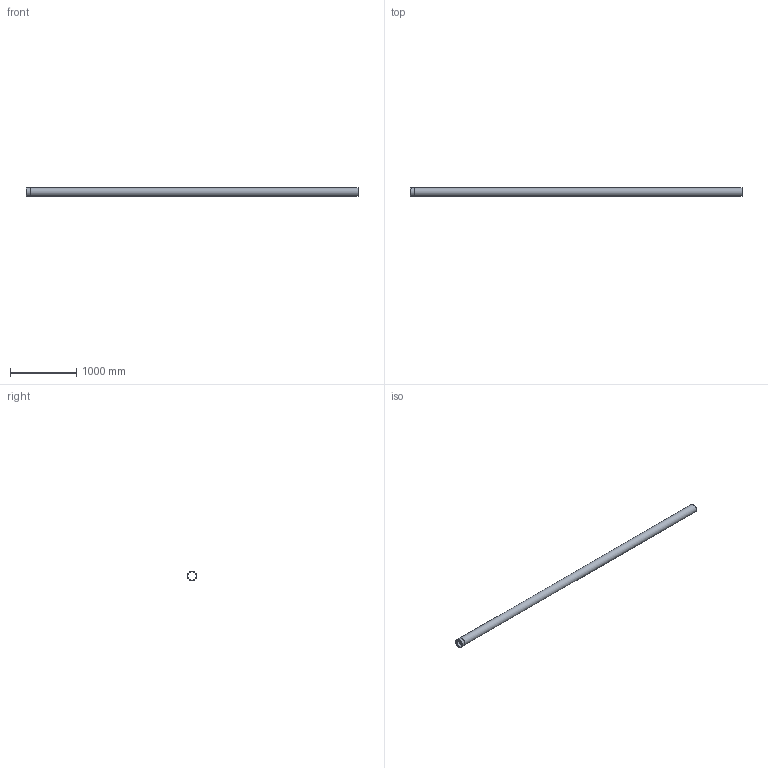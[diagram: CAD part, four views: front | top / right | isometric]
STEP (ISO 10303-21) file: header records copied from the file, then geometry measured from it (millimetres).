
FILE_DESCRIPTION((''),'2;1');
FILE_NAME('I:\WATTS\3D_CAD\3D_CAD_Models\Blucher_Drains\P_StraightPipe\WebsiteFiles\3D\STEP\P5-16.4-316.stp','2009-12-02T15:25:08',('menesek'),(''),'Autodesk Inventor 2010','Autodesk Inventor 2010','');
FILE_SCHEMA(('AUTOMOTIVE_DESIGN { 1 0 10303 214 1 1 1 1 }'));
Length unit declared in the file: inch
Products named in the file (1): P5-16.4-316
Bounding box: 5000 x 139.95 x 139.95 mm (x, y, z)
Volume: 2009651.2 mm3; surface area: 3901692.4 mm2
Topology: 1 solids, 1 shells, 109 faces, 285 edges, 190 vertices
Faces by surface type: plane 59, bspline 34, cylinder 16
Full cylindrical faces by diameter (mm): 122.936 x1, 124.968 x1, 125.984 x2, 139.954 x1
Entity records: 13939 total; most frequent: CARTESIAN_POINT 11561, ORIENTED_EDGE 548, DIRECTION 356, EDGE_CURVE 274, VERTEX_POINT 186, EDGE_LOOP 128, AXIS2_PLACEMENT_3D 120, VECTOR 116
